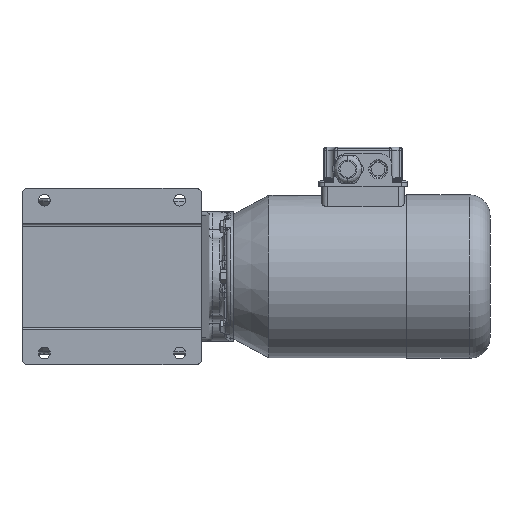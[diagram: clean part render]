
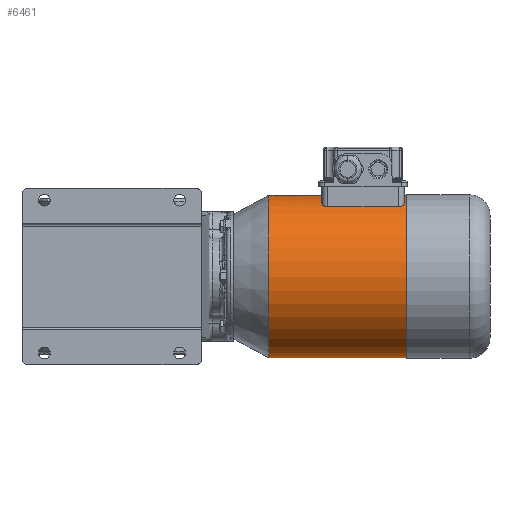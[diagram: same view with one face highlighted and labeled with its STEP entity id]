
A CAD part, front view. The second image highlights one B-rep face of the part: STEP entity #6461.
In plain terms, the highlighted cylindrical face has radius 69 mm (diameter 138 mm), a partial arc.
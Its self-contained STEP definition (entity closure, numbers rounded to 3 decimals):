
#42 = CIRCLE ( 'NONE', #13481, 69. ) ;
#270 = CARTESIAN_POINT ( 'NONE',  ( 140.329, -34.438, -59.792 ) ) ;
#351 = VERTEX_POINT ( 'NONE', #23673 ) ;
#445 = CARTESIAN_POINT ( 'NONE',  ( 73., -30.634, -61.831 ) ) ;
#592 = CARTESIAN_POINT ( 'NONE',  ( 143., -30., -62.137 ) ) ;
#613 = CARTESIAN_POINT ( 'NONE',  ( 73., -30., -62.137 ) ) ;
#790 = CARTESIAN_POINT ( 'NONE',  ( 76.294, -34.712, -59.633 ) ) ;
#1005 = CARTESIAN_POINT ( 'NONE',  ( 73., 0., 0. ) ) ;
#1149 = EDGE_CURVE ( 'NONE', #351, #32150, #21871, .T. ) ;
#1612 = VERTEX_POINT ( 'NONE', #3025 ) ;
#1899 = DIRECTION ( 'NONE',  ( -1., 0., 0. ) ) ;
#2113 = FACE_OUTER_BOUND ( 'NONE', #16238, .T. ) ;
#2507 = EDGE_CURVE ( 'NONE', #2724, #32150, #19064, .T. ) ;
#2724 = VERTEX_POINT ( 'NONE', #8401 ) ;
#3025 = CARTESIAN_POINT ( 'NONE',  ( 73., -30., -62.137 ) ) ;
#3144 = CARTESIAN_POINT ( 'NONE',  ( 138.7, -34.963, -59.486 ) ) ;
#3285 = CARTESIAN_POINT ( 'NONE',  ( 78., -35., -59.464 ) ) ;
#3326 = CARTESIAN_POINT ( 'NONE',  ( 73.918, -32.96, -60.621 ) ) ;
#3578 = DIRECTION ( 'NONE',  ( -1., 0., 0. ) ) ;
#3644 = EDGE_CURVE ( 'NONE', #16158, #30576, #33181, .T. ) ;
#4051 = EDGE_CURVE ( 'NONE', #351, #4627, #27794, .T. ) ;
#4454 = ORIENTED_EDGE ( 'NONE', *, *, #24952, .T. ) ;
#4496 = CARTESIAN_POINT ( 'NONE',  ( 71., 0., 69. ) ) ;
#4599 = AXIS2_PLACEMENT_3D ( 'NONE', #9087, #24520, #6749 ) ;
#4627 = VERTEX_POINT ( 'NONE', #10853 ) ;
#4670 = ORIENTED_EDGE ( 'NONE', *, *, #20399, .T. ) ;
#5169 = CARTESIAN_POINT ( 'NONE',  ( 142.97, -30.628, -61.831 ) ) ;
#5188 = CARTESIAN_POINT ( 'NONE',  ( 76.619, -34.818, -59.571 ) ) ;
#5324 = CARTESIAN_POINT ( 'NONE',  ( 142.05, -32.949, -60.626 ) ) ;
#5404 = ORIENTED_EDGE ( 'NONE', *, *, #8037, .F. ) ;
#5572 = VECTOR ( 'NONE', #16841, 1000. ) ;
#5687 = CARTESIAN_POINT ( 'NONE',  ( 78., -35., -59.464 ) ) ;
#6385 = DIRECTION ( 'NONE',  ( 0., -1., 0. ) ) ;
#6461 = ADVANCED_FACE ( 'NONE', ( #2113 ), #14717, .T. ) ;
#6749 = DIRECTION ( 'NONE',  ( 0., 0., -1. ) ) ;
#7092 = LINE ( 'NONE', #20173, #24937 ) ;
#7320 = DIRECTION ( 'NONE',  ( 0., 0., 1. ) ) ;
#8037 = EDGE_CURVE ( 'NONE', #19475, #12364, #19781, .T. ) ;
#8194 = CARTESIAN_POINT ( 'NONE',  ( 75.38, -34.262, -59.893 ) ) ;
#8263 = VECTOR ( 'NONE', #16437, 1000. ) ;
#8401 = CARTESIAN_POINT ( 'NONE',  ( 143., -30., -62.137 ) ) ;
#8498 = CARTESIAN_POINT ( 'NONE',  ( 73., 0., -69. ) ) ;
#9029 = AXIS2_PLACEMENT_3D ( 'NONE', #21972, #14598, #24649 ) ;
#9087 = CARTESIAN_POINT ( 'NONE',  ( 143., 0., 0. ) ) ;
#9339 = ORIENTED_EDGE ( 'NONE', *, *, #4051, .T. ) ;
#9375 = CARTESIAN_POINT ( 'NONE',  ( 0., 0., -69. ) ) ;
#9394 = B_SPLINE_CURVE_WITH_KNOTS ( 'NONE', 3,
 ( #22781, #30507, #3144, #13055, #21085, #270, #21257, #17904, #23443, #23272, #5324, #31333, #10546, #10864, #15410, #5169, #20585, #592 ),
 .UNSPECIFIED., .F., .F.,
 ( 4, 2, 2, 2, 2, 2, 2, 2, 4 ),
 ( 0.025, 0.026, 0.027, 0.028, 0.029, 0.03, 0.031, 0.032, 0.033 ),
 .UNSPECIFIED. ) ;
#9622 = CARTESIAN_POINT ( 'NONE',  ( 0., 0., -69. ) ) ;
#9839 = CARTESIAN_POINT ( 'NONE',  ( 0., 0., 0. ) ) ;
#10396 = CARTESIAN_POINT ( 'NONE',  ( 74.592, -33.673, -60.226 ) ) ;
#10420 = CARTESIAN_POINT ( 'NONE',  ( 143., 0., -69. ) ) ;
#10546 = CARTESIAN_POINT ( 'NONE',  ( 142.535, -32.129, -61.064 ) ) ;
#10726 = CARTESIAN_POINT ( 'NONE',  ( 74.838, -33.887, -60.106 ) ) ;
#10853 = CARTESIAN_POINT ( 'NONE',  ( 188., 0., 69. ) ) ;
#10864 = CARTESIAN_POINT ( 'NONE',  ( 142.765, -31.548, -61.366 ) ) ;
#10889 = CARTESIAN_POINT ( 'NONE',  ( 77.646, -35., -59.464 ) ) ;
#11075 = ORIENTED_EDGE ( 'NONE', *, *, #24363, .T. ) ;
#11274 = B_SPLINE_CURVE_WITH_KNOTS ( 'NONE', 3,
 ( #613, #445, #26312, #31358, #3326, #10396, #10726, #13581, #8194, #18421, #28676, #790, #5188, #18592, #10889, #5687 ),
 .UNSPECIFIED., .F., .F.,
 ( 4, 2, 2, 2, 2, 2, 2, 4 ),
 ( 0., 0.002, 0.004, 0.005, 0.006, 0.006, 0.007, 0.008 ),
 .UNSPECIFIED. ) ;
#11461 = CARTESIAN_POINT ( 'NONE',  ( 71., 0., 0. ) ) ;
#11737 = ORIENTED_EDGE ( 'NONE', *, *, #3644, .T. ) ;
#12364 = VERTEX_POINT ( 'NONE', #4496 ) ;
#12716 = CARTESIAN_POINT ( 'NONE',  ( 0., -35., -59.464 ) ) ;
#12831 = AXIS2_PLACEMENT_3D ( 'NONE', #11461, #3578, #18665 ) ;
#13055 = CARTESIAN_POINT ( 'NONE',  ( 139.375, -34.819, -59.57 ) ) ;
#13100 = ORIENTED_EDGE ( 'NONE', *, *, #2507, .T. ) ;
#13481 = AXIS2_PLACEMENT_3D ( 'NONE', #1005, #14440, #6385 ) ;
#13581 = CARTESIAN_POINT ( 'NONE',  ( 75.24, -34.172, -59.944 ) ) ;
#14440 = DIRECTION ( 'NONE',  ( -1., 0., 0. ) ) ;
#14598 = DIRECTION ( 'NONE',  ( -1., 0., 0. ) ) ;
#14717 = CYLINDRICAL_SURFACE ( 'NONE', #20745, 69. ) ;
#15410 = CARTESIAN_POINT ( 'NONE',  ( 142.853, -31.245, -61.521 ) ) ;
#16158 = VERTEX_POINT ( 'NONE', #3285 ) ;
#16238 = EDGE_LOOP ( 'NONE', ( #24246, #9339, #4454, #5404, #27294, #4670, #17047, #11737, #11075, #13100 ) ) ;
#16437 = DIRECTION ( 'NONE',  ( -1., 0., 0. ) ) ;
#16841 = DIRECTION ( 'NONE',  ( -1., 0., 0. ) ) ;
#16855 = EDGE_CURVE ( 'NONE', #1612, #16158, #11274, .T. ) ;
#17047 = ORIENTED_EDGE ( 'NONE', *, *, #16855, .T. ) ;
#17904 = CARTESIAN_POINT ( 'NONE',  ( 141.16, -33.889, -60.105 ) ) ;
#18421 = CARTESIAN_POINT ( 'NONE',  ( 75.671, -34.428, -59.798 ) ) ;
#18592 = CARTESIAN_POINT ( 'NONE',  ( 77.293, -34.962, -59.487 ) ) ;
#18665 = DIRECTION ( 'NONE',  ( 0., 0., 1. ) ) ;
#19064 = CIRCLE ( 'NONE', #4599, 69. ) ;
#19475 = VERTEX_POINT ( 'NONE', #28512 ) ;
#19781 = CIRCLE ( 'NONE', #12831, 69. ) ;
#20160 = CARTESIAN_POINT ( 'NONE',  ( 138., -35., -59.464 ) ) ;
#20173 = CARTESIAN_POINT ( 'NONE',  ( 0., 0., 69. ) ) ;
#20392 = DIRECTION ( 'NONE',  ( 1., 0., 0. ) ) ;
#20399 = EDGE_CURVE ( 'NONE', #24495, #1612, #42, .T. ) ;
#20585 = CARTESIAN_POINT ( 'NONE',  ( 143., -30.316, -61.985 ) ) ;
#20745 = AXIS2_PLACEMENT_3D ( 'NONE', #9839, #30325, #7320 ) ;
#21085 = CARTESIAN_POINT ( 'NONE',  ( 139.703, -34.713, -59.632 ) ) ;
#21257 = CARTESIAN_POINT ( 'NONE',  ( 140.619, -34.272, -59.887 ) ) ;
#21870 = VECTOR ( 'NONE', #20392, 1000. ) ;
#21871 = LINE ( 'NONE', #9622, #5572 ) ;
#21972 = CARTESIAN_POINT ( 'NONE',  ( 188., 0., 0. ) ) ;
#22781 = CARTESIAN_POINT ( 'NONE',  ( 138., -35., -59.464 ) ) ;
#23272 = CARTESIAN_POINT ( 'NONE',  ( 141.853, -33.202, -60.487 ) ) ;
#23443 = CARTESIAN_POINT ( 'NONE',  ( 141.41, -33.671, -60.227 ) ) ;
#23673 = CARTESIAN_POINT ( 'NONE',  ( 188., 0., -69. ) ) ;
#24058 = EDGE_CURVE ( 'NONE', #24495, #19475, #26324, .T. ) ;
#24246 = ORIENTED_EDGE ( 'NONE', *, *, #1149, .F. ) ;
#24363 = EDGE_CURVE ( 'NONE', #30576, #2724, #9394, .T. ) ;
#24495 = VERTEX_POINT ( 'NONE', #8498 ) ;
#24520 = DIRECTION ( 'NONE',  ( 1., 0., 0. ) ) ;
#24649 = DIRECTION ( 'NONE',  ( 0., 0., 1. ) ) ;
#24937 = VECTOR ( 'NONE', #1899, 1000. ) ;
#24952 = EDGE_CURVE ( 'NONE', #4627, #12364, #7092, .T. ) ;
#26312 = CARTESIAN_POINT ( 'NONE',  ( 73.117, -31.246, -61.523 ) ) ;
#26324 = LINE ( 'NONE', #9375, #8263 ) ;
#27294 = ORIENTED_EDGE ( 'NONE', *, *, #24058, .F. ) ;
#27794 = CIRCLE ( 'NONE', #9029, 69. ) ;
#28512 = CARTESIAN_POINT ( 'NONE',  ( 71., 0., -69. ) ) ;
#28676 = CARTESIAN_POINT ( 'NONE',  ( 75.824, -34.505, -59.753 ) ) ;
#30325 = DIRECTION ( 'NONE',  ( -1., 0., 0. ) ) ;
#30507 = CARTESIAN_POINT ( 'NONE',  ( 138.347, -35., -59.464 ) ) ;
#30576 = VERTEX_POINT ( 'NONE', #20160 ) ;
#31333 = CARTESIAN_POINT ( 'NONE',  ( 142.393, -32.41, -60.916 ) ) ;
#31358 = CARTESIAN_POINT ( 'NONE',  ( 73.582, -32.426, -60.91 ) ) ;
#32150 = VERTEX_POINT ( 'NONE', #10420 ) ;
#33181 = LINE ( 'NONE', #12716, #21870 ) ;
